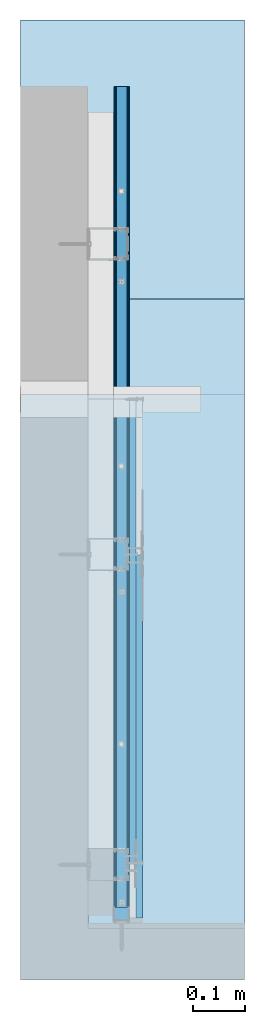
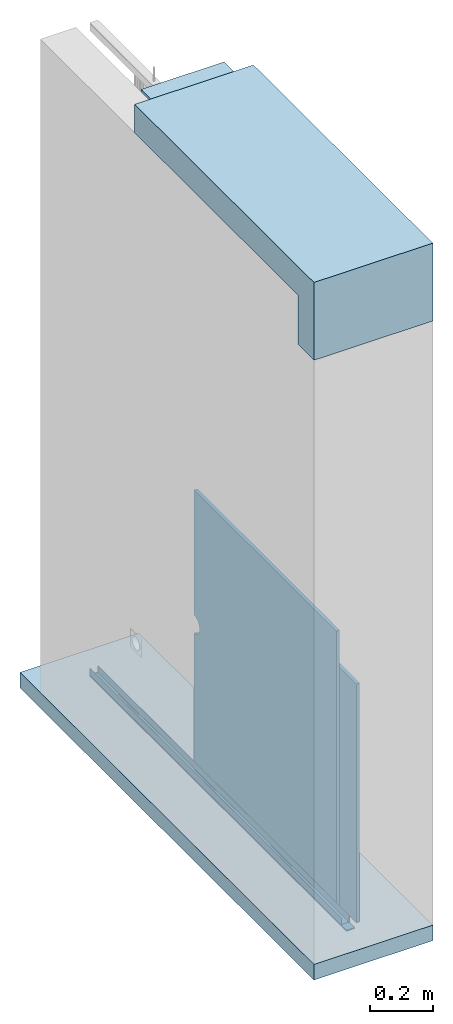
# One storey, part 1 of 61: 4 walls, 3 slabs.
"""IFC2X3 building model written with IfcOpenShell, lengths in millimetres."""

from ifc_helpers import new_model, si_unit, frame, origin_with_axes, place, context, subcontext, project, spatial, faceted_brep, material, type_object, element, save


model = new_model("IFC2X3")

# Units and contexts
model_context = context("Model", 3, world=origin_with_axes())
body_context = subcontext(model_context, "Body", "Model", "MODEL_VIEW")
ifc_project = project(units=[si_unit("LENGTHUNIT", "METRE", prefix="MILLI"), si_unit("AREAUNIT", "SQUARE_METRE"), si_unit("VOLUMEUNIT", "CUBIC_METRE")], contexts=[model_context])

# Site, building, storey
site_placement = place(None, frame((2152.1410261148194, -2015.0250894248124, 57.61556563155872), z_axis=(0.0, 0.0, 1.0), x_axis=(-1.1102230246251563e-16, 1.0, 0.0)))
site = spatial("IfcSite", under=ifc_project, at=site_placement, Name="Default Site", CompositionType="ELEMENT")
building_placement = place(site_placement, origin_with_axes())
building = spatial("IfcBuilding", under=site, at=building_placement, Name="Default Building", CompositionType="ELEMENT")
storey_placement = place(building_placement, origin_with_axes())
storey = spatial("IfcBuildingStorey", under=building, at=storey_placement, Name="Default Building Storey", CompositionType="ELEMENT", Elevation=57.61556563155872)

# Slabs
ifc_material_1 = material(Name="Concrete_04_1K")
slab_type_1 = type_object("IfcSlabType", Name="Strop#2", PredefinedType="FLOOR")
slab_1_placement = place(storey_placement, frame((3683.0405649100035, 2049.1410261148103, 2517.3944339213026), z_axis=(0.0, 0.0, 1.0), x_axis=(1.0, 0.0, 0.0)))
element("IfcSlab", 1, at=slab_1_placement, inside=storey, type_object=slab_type_1, material=ifc_material_1, Name="Strop", context=body_context, shape_type="Brep", body=[
    faceted_brep([(-350.99998329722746, -27.000143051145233, 3.0000004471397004), (-350.99998329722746, -27.000143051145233, 12.99999999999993), (-350.99998329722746, -330.00000000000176, 12.99999999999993), (-350.99998329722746, -330.00000000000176, 3.0000004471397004), (-1558.0154763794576, -27.000143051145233, 3.0000004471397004), (-1558.0154763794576, -27.000143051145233, -186.99999955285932), (-1568.0154763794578, -27.000143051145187, -186.99999955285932), (-1568.0154763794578, -27.000143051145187, 12.99999999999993), (-1558.0154763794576, -27.000143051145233, 12.99999999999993), (-1558.0154763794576, -330.0000000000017, 12.99999999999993), (-1568.0154763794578, -330.0000000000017, 12.99999999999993), (-1568.0154763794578, -330.0000000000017, -186.99999955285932), (-1558.0154763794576, -330.0000000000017, -186.99999955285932), (-1558.0154763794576, -330.0000000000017, 3.0000004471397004)], [[[0, 1, 2, 3]], [[0, 4, 5, 6, 7, 8, 1]], [[2, 1, 8, 9]], [[2, 9, 10, 11, 12, 13, 3]], [[0, 3, 13, 4]], [[7, 6, 11, 10]], [[9, 8, 7, 10]], [[5, 12, 11, 6]], [[4, 13, 12, 5]]]),
])
ifc_material_2 = material(Name="Concrete_02_1K")
slab_type_2 = type_object("IfcSlabType", Name="Beton#1", PredefinedType="FLOOR")
slab_2_placement = place(storey_placement, frame((3761.1571697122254, 2049.1410261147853, -50.615566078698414), z_axis=(0.0, 0.0, 1.0), x_axis=(1.0, 0.0, 0.0)))
element("IfcSlab", 2, at=slab_2_placement, inside=storey, type_object=slab_type_2, material=ifc_material_2, Name="Beton", context=body_context, shape_type="Brep", body=[
    faceted_brep([(110.0000167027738, 103.00000000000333, -6.999999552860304), (110.0000167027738, 103.00000000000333, 52.999592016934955), (110.0000167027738, -330.0000000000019, 52.999592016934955), (110.0000167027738, -330.0000000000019, -6.999999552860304), (-1746.1320802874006, 103.00000000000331, 52.999592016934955), (-1746.1320802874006, 103.00000000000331, -6.999999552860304), (-1746.1320802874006, -330.00000000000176, -6.999999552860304), (-1746.1320802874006, -330.00000000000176, 52.999592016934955)], [[[0, 1, 2, 3]], [[4, 5, 6, 7]], [[1, 0, 5, 4]], [[2, 1, 4, 7]], [[3, 2, 7, 6]], [[0, 3, 6, 5]]]),
])
slab_type_3 = type_object("IfcSlabType", Name="Strop#1", PredefinedType="FLOOR")
slab_3_placement = place(storey_placement, frame((3683.0405649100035, 2049.1410261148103, 2527.3944334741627), z_axis=(0.0, 0.0, 1.0), x_axis=(1.0, 0.0, 0.0)))
element("IfcSlab", 3, at=slab_3_placement, inside=storey, type_object=slab_type_3, material=ifc_material_2, Name="Strop", context=body_context, shape_type="Brep", body=[
    faceted_brep([(-535.9999832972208, 103.00000000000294, -6.999999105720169), (-535.9999832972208, 103.00000000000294, 103.00000000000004), (-535.9999832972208, -330.00000000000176, 103.00000000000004), (-535.9999832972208, -330.00000000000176, 3.0000004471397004), (-535.9999832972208, -27.000143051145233, 3.0000004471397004), (-535.9999832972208, -27.000143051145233, -6.999999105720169), (-1568.0154759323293, 103.00000000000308, -6.999999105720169), (-1568.0154759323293, 103.00000000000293, -196.99999910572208), (-1668.0154754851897, 103.00000000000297, -196.99999910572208), (-1668.0154754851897, 103.00000000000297, 103.00000000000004), (-1668.0154754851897, -330.00000000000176, 103.00000000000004), (-1668.0154754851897, -330.00000000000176, -196.99999910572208), (-1568.0154759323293, -330.0000000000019, -196.99999910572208), (-1568.0154759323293, -330.0000000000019, 3.0000004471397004), (-1568.0154759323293, -27.00014305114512, 3.0000004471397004), (-1568.0154759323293, -27.00014305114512, -6.999999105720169)], [[[0, 1, 2, 3, 4, 5]], [[1, 0, 6, 7, 8, 9]], [[1, 9, 10, 2]], [[2, 10, 11, 12, 13, 3]], [[9, 8, 11, 10]], [[7, 12, 11, 8]], [[14, 13, 12, 7, 6, 15]], [[13, 14, 4, 3]], [[0, 5, 15, 6]], [[4, 14, 15, 5]]]),
])

# Walls
ifc_material_3 = material(Name="Undefined7")
wall_type_1 = type_object("IfcWallType", Name="Płyta gipsowo-kartonowa RIGIPS PRO (4PRO™)#4", PredefinedType="NOTDEFINED")
wall_1_placement = place(storey_placement, frame((2835.506370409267, 1928.680077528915, 1062.3900398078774), z_axis=(0.0, 0.0, 1.0), x_axis=(-1.0, 6.389333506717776e-13, 0.0)))
element("IfcWall", 4, at=wall_1_placement, inside=storey, type_object=wall_type_1, material=ifc_material_3, Name="Płyta gipsowo-kartonowa RIGIPS PRO (4PRO™)", context=body_context, shape_type="Brep", body=[
    faceted_brep([(700.4768892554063, 12.500000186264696, -130.99999999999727), (700.4768892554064, -3.9046383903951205e-10, -130.99999999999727), (700.4768892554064, -3.872152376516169e-10, -1050.001621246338), (700.4768892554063, 12.500000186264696, -1050.001621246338), (45.00000178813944, 12.500000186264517, -130.99999999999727), (41.000001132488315, 11.500000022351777, -130.99999999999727), (1.000000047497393, 11.500000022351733, -130.99999999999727), (0.7411809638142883, 11.465925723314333, -130.99999999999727), (0.5000000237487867, 11.366025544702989, -130.99999999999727), (0.2928932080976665, 11.207106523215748, -130.99999999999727), (0.13397459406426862, 10.999999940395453, -130.99999999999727), (0.03407417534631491, 10.758819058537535, -130.99999999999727), (-2.887645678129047e-12, 10.499999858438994, -130.99999999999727), (0.0, 0.0, -130.99999999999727), (45.00000178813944, 12.500000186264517, -1050.001621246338), (41.000001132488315, 11.500000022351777, -1050.001621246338), (1.000000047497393, 11.500000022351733, -1050.001621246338), (0.7411809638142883, 11.465925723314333, -1050.001621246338), (0.5000000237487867, 11.366025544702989, -1050.001621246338), (0.2928932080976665, 11.207106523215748, -1050.001621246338), (0.13397459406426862, 10.999999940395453, -1050.001621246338), (0.03407417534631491, 10.758819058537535, -1050.001621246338), (-2.887645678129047e-12, 10.499999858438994, -1050.001621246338), (0.0, 0.0, -1050.001621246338)], [[[0, 1, 2, 3]], [[0, 4, 5, 6, 7, 8, 9, 10, 11, 12, 13, 1]], [[3, 14, 4, 0]], [[5, 4, 14, 15]], [[6, 5, 15, 16]], [[7, 6, 16, 17]], [[8, 7, 17, 18]], [[9, 8, 18, 19]], [[10, 9, 19, 20]], [[11, 10, 20, 21]], [[12, 11, 21, 22]], [[13, 12, 22, 23]], [[2, 1, 13, 23]], [[14, 3, 2, 23, 22, 21, 20, 19, 18, 17, 16, 15]]]),
])
ifc_material_4 = material(Name="Undefined13")
wall_type_2 = type_object("IfcWallType", Name="Taśma uszczelniająca piankowa RIGIPS#3", PredefinedType="NOTDEFINED")
wall_2_placement = place(storey_placement, frame((5610.165077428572, 3440.792279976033, -108.59097421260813), z_axis=(-6.09261989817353e-14, -6.85815824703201e-13, 1.0), x_axis=(-1.0, -2.0134422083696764e-15, -6.092619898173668e-14)))
element("IfcWall", 5, at=wall_2_placement, inside=storey, type_object=wall_type_2, material=ifc_material_4, Name="Taśma uszczelniająca piankowa RIGIPS", context=body_context, shape_type="Brep", body=[
    faceted_brep([(1867.1244382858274, 1498.965978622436, 113.97500336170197), (1867.1244382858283, 1498.9659786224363, 110.9749972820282), (1867.1244382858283, 1468.966007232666, 110.9749972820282), (1867.1244382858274, 1468.9660072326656, 113.97500336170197), (3487.5264937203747, 1498.9659786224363, 110.9749972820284), (3487.5264937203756, 1498.965978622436, 113.97500336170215), (3487.5264937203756, 1468.9660072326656, 113.97500336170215), (3487.5264937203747, 1468.9660072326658, 110.9749972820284)], [[[0, 1, 2, 3]], [[4, 5, 6, 7]], [[5, 0, 3, 6]], [[6, 3, 2, 7]], [[7, 2, 1, 4]], [[4, 1, 0, 5]]]),
])
wall_type_3 = type_object("IfcWallType", Name="Płyta gipsowo-kartonowa RIGIPS PRO (4PRO™)#5", PredefinedType="NOTDEFINED")
wall_3_placement = place(storey_placement, frame((2222.4296487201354, 1941.1800775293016, 1162.3900398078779), z_axis=(0.0, 0.0, 1.0), x_axis=(1.0, 0.0, 0.0)))
element("IfcWall", 6, at=wall_3_placement, inside=storey, type_object=wall_type_3, material=ifc_material_3, Name="Płyta gipsowo-kartonowa RIGIPS PRO (4PRO™)", context=body_context, shape_type="Brep", body=[
    faceted_brep([(17.71010947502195, -11.465925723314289, -1150.001525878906), (17.968928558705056, -11.500000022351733, -1150.001525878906), (17.968928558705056, -11.500000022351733, -86.00000000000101), (17.71010947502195, -11.465925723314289, -86.00000000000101), (57.96892964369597, -11.500000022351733, -1150.001525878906), (61.96893029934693, -12.500000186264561, -1150.001525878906), (61.96893029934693, -12.500000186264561, -86.00000000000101), (57.96892964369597, -11.500000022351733, -86.00000000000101), (17.26182171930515, -11.207106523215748, -1150.001525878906), (17.26182171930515, -11.207106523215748, -86.00000000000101), (17.10290310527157, -10.999999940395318, -86.00000000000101), (17.10290310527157, -10.999999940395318, -1150.001525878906), (16.968928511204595, -10.499999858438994, -1150.001525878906), (16.968928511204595, -10.499999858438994, -86.00000000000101), (16.968928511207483, 0.0, -86.00000000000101), (16.968928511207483, 0.0, -1150.001525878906), (17.46892853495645, -11.366025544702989, -1150.001525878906), (17.46892853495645, -11.366025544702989, -86.00000000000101), (17.003002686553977, -10.758819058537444, -1150.001525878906), (17.003002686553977, -10.758819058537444, -86.00000000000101), (915.6074303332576, -9.023892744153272e-14, -1150.001525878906), (915.6074303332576, -12.500000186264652, -1150.001525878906), (915.6074303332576, -12.500000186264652, -86.00000000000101), (915.6074303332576, -9.023892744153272e-14, -86.00000000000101), (915.6074303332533, -9.023892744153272e-14, -638.0625222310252), (915.6074303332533, -12.500000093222, -638.0625222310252), (915.6074303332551, -12.500000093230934, -685.9921750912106), (913.4097621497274, -12.500000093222, -637.9934577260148), (911.2207671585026, -12.500000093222, -637.7865367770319), (909.0490843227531, -12.500000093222, -637.4425760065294), (906.9032842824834, -12.500000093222, -636.9629328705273), (904.7918355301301, -12.50000009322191, -636.3495003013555), (902.7230709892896, -12.50000009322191, -635.6046992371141), (900.7051551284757, -12.50000009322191, -634.731469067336), (898.7460517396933, -12.50000009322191, -633.7332560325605), (896.8534925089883, -12.50000009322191, -632.6139996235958), (895.0349465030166, -12.50000009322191, -631.3781170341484), (893.2975906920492, -12.50000009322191, -630.0304857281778), (891.6482816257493, -12.50000009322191, -628.5764241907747), (890.093528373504, -12.50000009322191, -627.0216709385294), (888.6394668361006, -12.50000009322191, -625.3723618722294), (887.29183553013, -12.50000009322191, -623.6350060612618), (886.0559529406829, -12.50000009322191, -621.8164600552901), (884.9366965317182, -12.50000009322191, -619.9239008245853), (883.9384834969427, -12.50000009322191, -617.9647974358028), (883.0652533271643, -12.50000009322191, -615.9468815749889), (882.3204522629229, -12.50000009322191, -613.8781170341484), (881.7070196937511, -12.50000009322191, -611.7666682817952), (881.2273765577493, -12.50000009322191, -609.6208682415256), (880.8834157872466, -12.50000009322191, -607.4491854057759), (880.6764948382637, -12.50000009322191, -605.2601904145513), (880.6074303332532, -12.50000009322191, -603.0625222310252), (880.6764948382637, -12.50000009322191, -600.8648540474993), (880.8834157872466, -12.50000009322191, -598.6758590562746), (881.2273765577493, -12.50000009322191, -596.5041762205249), (881.7070196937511, -12.50000009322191, -594.3583761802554), (882.3204522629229, -12.50000009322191, -592.2469274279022), (883.0652533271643, -12.50000009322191, -590.1781628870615), (883.9384834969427, -12.50000009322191, -588.1602470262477), (884.9366965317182, -12.50000009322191, -586.2011436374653), (886.0559529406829, -12.50000009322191, -584.3085844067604), (887.29183553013, -12.50000009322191, -582.4900384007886), (888.6394668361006, -12.50000009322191, -580.752682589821), (890.093528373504, -12.50000009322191, -579.1033735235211), (891.6482816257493, -12.50000009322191, -577.5486202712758), (893.2975906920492, -12.50000009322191, -576.0945587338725), (895.0349465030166, -12.50000009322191, -574.7469274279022), (896.8534925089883, -12.50000009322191, -573.5110448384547), (898.7460517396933, -12.50000009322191, -572.3917884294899), (900.7051551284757, -12.50000009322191, -571.3935753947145), (902.7230709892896, -12.50000009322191, -570.5203452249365), (904.7918355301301, -12.50000009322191, -569.7755441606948), (906.9032842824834, -12.500000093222, -569.1621115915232), (909.0490843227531, -12.500000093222, -568.6824684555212), (911.2207671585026, -12.500000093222, -568.3385076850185), (913.4097621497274, -12.500000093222, -568.1315867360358), (915.6074303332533, -12.500000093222, -568.0625222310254), (915.6074303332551, -12.500000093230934, -527.9921750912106), (913.4097621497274, -9.023892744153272e-14, -568.1315867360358), (915.6074303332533, -9.023892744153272e-14, -568.0625222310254), (911.2207671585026, -9.023892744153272e-14, -568.3385076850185), (909.0490843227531, -9.023892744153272e-14, -568.6824684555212), (906.9032842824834, -9.023892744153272e-14, -569.1621115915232), (904.7918355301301, -9.023892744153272e-14, -569.7755441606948), (902.7230709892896, -9.023892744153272e-14, -570.5203452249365), (900.7051551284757, -9.023892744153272e-14, -571.3935753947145), (898.7460517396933, -9.023892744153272e-14, -572.3917884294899), (896.8534925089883, -9.023892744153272e-14, -573.5110448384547), (895.0349465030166, -9.023892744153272e-14, -574.7469274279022), (893.2975906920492, -9.023892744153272e-14, -576.0945587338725), (891.6482816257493, -9.023892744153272e-14, -577.5486202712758), (890.093528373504, -9.023892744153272e-14, -579.1033735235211), (888.6394668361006, 0.0, -580.752682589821), (887.29183553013, 0.0, -582.4900384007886), (886.0559529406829, 0.0, -584.3085844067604), (884.9366965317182, 0.0, -586.2011436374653), (883.9384834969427, 0.0, -588.1602470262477), (883.0652533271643, 0.0, -590.1781628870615), (882.3204522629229, 0.0, -592.2469274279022), (881.7070196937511, 0.0, -594.3583761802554), (881.2273765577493, 0.0, -596.5041762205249), (880.8834157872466, 0.0, -598.6758590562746), (880.6764948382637, 0.0, -600.8648540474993), (880.6074303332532, 0.0, -603.0625222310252), (880.6764948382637, 0.0, -605.2601904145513), (880.8834157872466, 0.0, -607.4491854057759), (881.2273765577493, 0.0, -609.6208682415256), (881.7070196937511, 0.0, -611.7666682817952), (882.3204522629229, 0.0, -613.8781170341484), (883.0652533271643, 0.0, -615.9468815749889), (883.9384834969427, 0.0, -617.9647974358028), (884.9366965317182, 0.0, -619.9239008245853), (886.0559529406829, 0.0, -621.8164600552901), (887.29183553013, 0.0, -623.6350060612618), (888.6394668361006, 0.0, -625.3723618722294), (890.093528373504, -9.023892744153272e-14, -627.0216709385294), (891.6482816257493, -9.023892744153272e-14, -628.5764241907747), (893.2975906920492, -9.023892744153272e-14, -630.0304857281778), (895.0349465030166, -9.023892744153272e-14, -631.3781170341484), (896.8534925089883, -9.023892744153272e-14, -632.6139996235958), (898.7460517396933, -9.023892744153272e-14, -633.7332560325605), (900.7051551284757, -9.023892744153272e-14, -634.731469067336), (902.7230709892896, -9.023892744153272e-14, -635.6046992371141), (904.7918355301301, -9.023892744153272e-14, -636.3495003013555), (906.9032842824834, -9.023892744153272e-14, -636.9629328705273), (909.0490843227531, -9.023892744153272e-14, -637.4425760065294), (911.2207671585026, -9.023892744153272e-14, -637.7865367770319), (913.4097621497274, -9.023892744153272e-14, -637.9934577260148)], [[[0, 1, 2, 3]], [[4, 5, 6, 7]], [[8, 9, 10, 11]], [[12, 13, 14, 15]], [[8, 16, 17, 9]], [[1, 4, 7, 2]], [[16, 0, 3, 17]], [[18, 19, 13, 12]], [[11, 10, 19, 18]], [[15, 20, 21, 5, 4, 1, 0, 16, 8, 11, 18, 12]], [[6, 22, 23, 14, 13, 19, 10, 9, 17, 3, 2, 7]], [[20, 24, 25, 26, 21]], [[26, 25, 27, 28, 29, 30, 31, 32, 33, 34, 35, 36, 37, 38, 39, 40, 41, 42, 43, 44, 45, 46, 47, 48, 49, 50, 51, 52, 53, 54, 55, 56, 57, 58, 59, 60, 61, 62, 63, 64, 65, 66, 67, 68, 69, 70, 71, 72, 73, 74, 75, 76, 77, 22, 6, 5, 21]], [[76, 75, 78, 79]], [[75, 74, 80, 78]], [[74, 73, 81, 80]], [[73, 72, 82, 81]], [[72, 71, 83, 82]], [[71, 70, 84, 83]], [[70, 69, 85, 84]], [[69, 68, 86, 85]], [[68, 67, 87, 86]], [[67, 66, 88, 87]], [[66, 65, 89, 88]], [[65, 64, 90, 89]], [[64, 63, 91, 90]], [[63, 62, 92, 91]], [[62, 61, 93, 92]], [[61, 60, 94, 93]], [[60, 59, 95, 94]], [[59, 58, 96, 95]], [[58, 57, 97, 96]], [[57, 56, 98, 97]], [[56, 55, 99, 98]], [[55, 54, 100, 99]], [[54, 53, 101, 100]], [[53, 52, 102, 101]], [[52, 51, 103, 102]], [[51, 50, 104, 103]], [[50, 49, 105, 104]], [[49, 48, 106, 105]], [[48, 47, 107, 106]], [[47, 46, 108, 107]], [[46, 45, 109, 108]], [[45, 44, 110, 109]], [[44, 43, 111, 110]], [[43, 42, 112, 111]], [[42, 41, 113, 112]], [[41, 40, 114, 113]], [[40, 39, 115, 114]], [[39, 38, 116, 115]], [[38, 37, 117, 116]], [[37, 36, 118, 117]], [[36, 35, 119, 118]], [[35, 34, 120, 119]], [[34, 33, 121, 120]], [[33, 32, 122, 121]], [[32, 31, 123, 122]], [[31, 30, 124, 123]], [[30, 29, 125, 124]], [[29, 28, 126, 125]], [[28, 27, 127, 126]], [[27, 25, 24, 127]], [[76, 79, 23, 22, 77]], [[23, 79, 78, 80, 81, 82, 83, 84, 85, 86, 87, 88, 89, 90, 91, 92, 93, 94, 95, 96, 97, 98, 99, 100, 101, 102, 103, 104, 105, 106, 107, 108, 109, 110, 111, 112, 113, 114, 115, 116, 117, 118, 119, 120, 121, 122, 123, 124, 125, 126, 127, 24, 20, 15, 14]]]),
])
ifc_material_5 = material(Name="Undefined9")
wall_type_4 = type_object("IfcWallType", Name="Profil RIGIPS UD 30 GypSerra®/Ultrastil®", PredefinedType="NOTDEFINED")
wall_4_placement = place(storey_placement, frame((5048.786508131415, 3440.792279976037, -108.59097421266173), z_axis=(-6.092619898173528e-14, -6.85815824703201e-13, 1.0), x_axis=(-1.0, -2.013442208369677e-15, -6.092619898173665e-14)))
element("IfcWall", 7, at=wall_4_placement, inside=storey, type_object=wall_type_4, material=ifc_material_5, Name="Profil RIGIPS UD 30 GypSerra®/Ultrastil®", context=body_context, shape_type="Brep", body=[
    faceted_brep([(2893.189556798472, 1469.9159860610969, 140.97499847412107), (2893.189556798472, 1469.366073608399, 140.97499847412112), (2893.18955679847, 1469.3660736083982, 114.77500200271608), (2893.1895567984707, 1469.3758487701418, 114.6498546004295), (2893.1895567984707, 1469.405174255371, 114.52778428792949), (2893.1895567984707, 1469.4532155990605, 114.4118085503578), (2893.1895567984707, 1469.518780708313, 114.30477350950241), (2893.1895567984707, 1469.6003198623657, 114.20931667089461), (2893.1895567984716, 1469.6958065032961, 114.1277849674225), (2893.1895567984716, 1469.8028564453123, 114.06219750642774), (2893.1895567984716, 1469.9188470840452, 114.01415616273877), (2893.1895567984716, 1470.0409173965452, 113.9848530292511), (2893.1895567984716, 1470.1660871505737, 113.97500336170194), (2893.1895567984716, 1472.0159769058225, 113.97500336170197), (2893.1895567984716, 1472.1635580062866, 113.98871988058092), (2893.1895567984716, 1472.3060131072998, 114.02940750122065), (2893.1895567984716, 1472.4385738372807, 114.09565806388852), (2893.1895567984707, 1472.5565910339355, 114.18521404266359), (2893.1895567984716, 1472.656011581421, 114.29499834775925), (2893.1895567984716, 1473.6760854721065, 115.65499752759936), (2893.1895567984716, 1473.7755060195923, 115.76478183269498), (2893.1895567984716, 1473.8935232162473, 115.85433781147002), (2893.189556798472, 1474.0260839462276, 115.92059582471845), (2893.189556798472, 1474.1685390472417, 115.96128344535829), (2893.189556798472, 1474.316000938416, 115.97499996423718), (2893.189556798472, 1493.6159849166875, 115.97499996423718), (2893.189556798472, 1493.7635660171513, 115.96128344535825), (2893.189556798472, 1493.9060211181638, 115.92059582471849), (2893.189556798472, 1494.0385818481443, 115.85433781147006), (2893.189556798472, 1494.1565990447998, 115.76478183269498), (2893.189556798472, 1494.2560195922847, 115.65499752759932), (2893.1895567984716, 1495.2759742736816, 114.29499834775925), (2893.1895567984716, 1495.3755140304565, 114.18521404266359), (2893.1895567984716, 1495.4935312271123, 114.09565806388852), (2893.1895567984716, 1495.6260919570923, 114.02940750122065), (2893.1895567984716, 1495.7685470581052, 113.98871988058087), (2893.1895567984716, 1495.9160089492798, 113.97500336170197), (2893.1895567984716, 1497.7660179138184, 113.97500336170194), (2893.1895567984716, 1497.8911876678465, 113.98485302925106), (2893.1895567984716, 1498.0132579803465, 114.01415616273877), (2893.1895567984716, 1498.1292486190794, 114.06219750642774), (2893.1895567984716, 1498.2362985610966, 114.12778496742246), (2893.1895567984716, 1498.3316659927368, 114.2093166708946), (2893.1895567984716, 1498.4132051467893, 114.30477350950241), (2893.1895567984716, 1498.4788894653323, 114.4118085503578), (2893.1895567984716, 1498.5269308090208, 114.5277842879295), (2893.1895567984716, 1498.5561370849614, 114.6498546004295), (2893.189556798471, 1498.5660314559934, 114.77500200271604), (2893.189556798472, 1498.5660314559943, 140.97499847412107), (2893.189556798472, 1498.0159997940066, 140.97499847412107), (2893.189556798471, 1498.0159997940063, 114.77500200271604), (2893.1895567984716, 1498.012900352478, 114.73589390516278), (2893.1895567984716, 1498.0038404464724, 114.69774693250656), (2893.1895567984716, 1497.9888200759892, 114.66149985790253), (2893.1895567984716, 1497.9683160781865, 114.62805420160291), (2893.1895567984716, 1497.942805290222, 114.59822207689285), (2893.1895567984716, 1497.9130029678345, 114.57274854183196), (2893.1895567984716, 1497.8795051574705, 114.55225199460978), (2893.1895567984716, 1497.843265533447, 114.53723907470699), (2893.1895567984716, 1497.8051185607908, 114.5280748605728), (2893.1895567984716, 1497.7660179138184, 114.52499777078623), (2893.1895567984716, 1495.9160089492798, 114.52499777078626), (2893.1895567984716, 1495.8698749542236, 114.52928930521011), (2893.1895567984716, 1495.825409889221, 114.54199999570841), (2893.1895567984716, 1495.784044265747, 114.56270515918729), (2893.1895567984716, 1495.747089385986, 114.59068953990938), (2893.1895567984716, 1495.715975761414, 114.6249994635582), (2893.189556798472, 1494.6960210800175, 115.98499864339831), (2893.189556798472, 1494.5281744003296, 116.17025732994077), (2893.1895567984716, 1494.3289756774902, 116.32138490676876), (2893.1895567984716, 1494.1053390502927, 116.43319576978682), (2893.1895567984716, 1493.8650131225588, 116.50185286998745), (2893.1895567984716, 1493.6159849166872, 116.52500182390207), (2893.189556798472, 1474.3160009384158, 116.52500182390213), (2893.189556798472, 1474.067091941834, 116.50185286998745), (2893.189556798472, 1473.8266468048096, 116.43319576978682), (2893.189556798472, 1473.6031293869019, 116.32138490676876), (2893.189556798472, 1473.4039306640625, 116.17025732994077), (2893.189556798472, 1473.2360839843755, 115.98499864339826), (2893.1895567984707, 1472.2160100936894, 114.6249994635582), (2893.1895567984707, 1472.1848964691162, 114.59068953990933), (2893.1895567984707, 1472.148060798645, 114.56270515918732), (2893.1895567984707, 1472.1066951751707, 114.54199999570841), (2893.1895567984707, 1472.0621109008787, 114.52928930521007), (2893.1895567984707, 1472.0159769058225, 114.52499777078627), (2893.1895567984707, 1470.1660871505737, 114.52499777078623), (2893.1895567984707, 1470.1268672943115, 114.5280748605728), (2893.1895567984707, 1470.088720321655, 114.53723907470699), (2893.1895567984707, 1470.0524806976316, 114.55225199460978), (2893.1895567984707, 1470.0191020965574, 114.57274854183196), (2893.1895567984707, 1469.9892997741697, 114.59822207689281), (2893.1895567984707, 1469.9637889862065, 114.6280542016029), (2893.1895567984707, 1469.943284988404, 114.66149985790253), (2893.1895567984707, 1469.9282646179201, 114.69774693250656), (2893.1895567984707, 1469.9190855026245, 114.73589390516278), (2893.18955679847, 1469.915986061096, 114.77500200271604), (1306.0656785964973, 1469.3660736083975, 114.77500200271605), (1306.0656785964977, 1469.3660736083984, 140.9749984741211), (1306.0656785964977, 1469.9159860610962, 140.97499847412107), (1306.0656785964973, 1469.9159860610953, 114.77500200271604), (1306.0656785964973, 1469.9190855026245, 114.73589390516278), (1306.0656785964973, 1469.9282646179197, 114.69774693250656), (1306.0656785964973, 1469.9432849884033, 114.66149985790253), (1306.0656785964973, 1469.963788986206, 114.62805420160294), (1306.0656785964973, 1469.989299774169, 114.59822207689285), (1306.0656785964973, 1470.0191020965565, 114.57274854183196), (1306.0656785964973, 1470.0524806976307, 114.55225199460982), (1306.0656785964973, 1470.0887203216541, 114.53723907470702), (1306.0656785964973, 1470.1268672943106, 114.52807486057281), (1306.0656785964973, 1470.1660871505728, 114.5249977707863), (1306.0656785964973, 1472.0159769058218, 114.52499777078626), (1306.0656785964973, 1472.062110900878, 114.52928930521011), (1306.0656785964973, 1472.10669517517, 114.54199999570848), (1306.0656785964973, 1472.148060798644, 114.56270515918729), (1306.0656785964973, 1472.1848964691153, 114.59068953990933), (1306.0656785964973, 1472.216010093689, 114.6249994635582), (1306.0656785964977, 1473.236083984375, 115.98499864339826), (1306.0656785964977, 1473.4039306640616, 116.17025732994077), (1306.0656785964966, 1473.6031293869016, 116.3213849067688), (1306.0656785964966, 1473.8266468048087, 116.43319576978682), (1306.0656785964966, 1474.0670919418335, 116.50185286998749), (1306.0656785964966, 1474.3160009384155, 116.52500182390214), (1306.0656785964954, 1493.615984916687, 116.52500182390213), (1306.0656785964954, 1493.8650131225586, 116.50185286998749), (1306.0656785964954, 1494.105339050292, 116.43319576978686), (1306.0656785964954, 1494.32897567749, 116.3213849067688), (1306.0656785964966, 1494.5281744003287, 116.17025732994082), (1306.0656785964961, 1494.696021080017, 115.98499864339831), (1306.0656785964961, 1495.7159757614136, 114.62499946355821), (1306.0656785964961, 1495.7470893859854, 114.59068953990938), (1306.0656785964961, 1495.7840442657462, 114.56270515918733), (1306.0656785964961, 1495.8254098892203, 114.54199999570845), (1306.0656785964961, 1495.8698749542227, 114.52928930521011), (1306.0656785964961, 1495.9160089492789, 114.5249977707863), (1306.0656785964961, 1497.7660179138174, 114.52499777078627), (1306.0656785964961, 1497.80511856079, 114.5280748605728), (1306.0656785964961, 1497.8432655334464, 114.53723907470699), (1306.0656785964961, 1497.8795051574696, 114.55225199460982), (1306.0656785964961, 1497.9130029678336, 114.57274854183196), (1306.0656785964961, 1497.9428052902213, 114.59822207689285), (1306.0656785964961, 1497.968316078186, 114.62805420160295), (1306.0656785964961, 1497.9888200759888, 114.66149985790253), (1306.0656785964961, 1498.0038404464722, 114.69774693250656), (1306.0656785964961, 1498.0129003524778, 114.73589390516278), (1306.0656785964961, 1498.0159997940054, 114.77500200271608), (1306.0656785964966, 1498.0159997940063, 140.97499847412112), (1306.0656785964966, 1498.5660314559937, 140.97499847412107), (1306.0656785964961, 1498.5660314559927, 114.77500200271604), (1306.0656785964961, 1498.556137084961, 114.64985460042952), (1306.0656785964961, 1498.5269308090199, 114.52778428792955), (1306.0656785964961, 1498.478889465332, 114.41180855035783), (1306.0656785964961, 1498.4132051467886, 114.30477350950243), (1306.0656785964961, 1498.3316659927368, 114.20931667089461), (1306.0656785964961, 1498.236298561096, 114.12778496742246), (1306.0656785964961, 1498.1292486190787, 114.06219750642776), (1306.0656785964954, 1498.0132579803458, 114.01415616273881), (1306.0656785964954, 1497.8911876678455, 113.9848530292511), (1306.0656785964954, 1497.7660179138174, 113.97500336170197), (1306.0656785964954, 1495.9160089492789, 113.97500336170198), (1306.0656785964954, 1495.7685470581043, 113.98871988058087), (1306.0656785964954, 1495.6260919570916, 114.02940750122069), (1306.0656785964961, 1495.4935312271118, 114.09565806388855), (1306.0656785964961, 1495.3755140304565, 114.18521404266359), (1306.0656785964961, 1495.275974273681, 114.29499834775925), (1306.0656785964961, 1494.2560195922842, 115.65499752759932), (1306.0656785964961, 1494.1565990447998, 115.76478183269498), (1306.0656785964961, 1494.0385818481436, 115.85433781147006), (1306.0656785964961, 1493.9060211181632, 115.92059582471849), (1306.0656785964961, 1493.7635660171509, 115.96128344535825), (1306.0656785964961, 1493.615984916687, 115.9749999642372), (1306.0656785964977, 1474.3160009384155, 115.9749999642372), (1306.0656785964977, 1474.1685390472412, 115.96128344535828), (1306.0656785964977, 1474.0260839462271, 115.92059582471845), (1306.0656785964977, 1473.8935232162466, 115.85433781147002), (1306.0656785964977, 1473.7755060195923, 115.764781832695), (1306.0656785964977, 1473.676085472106, 115.65499752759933), (1306.0656785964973, 1472.65601158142, 114.29499834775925), (1306.0656785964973, 1472.5565910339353, 114.18521404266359), (1306.0656785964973, 1472.43857383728, 114.09565806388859), (1306.0656785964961, 1472.306013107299, 114.02940750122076), (1306.0656785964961, 1472.1635580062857, 113.98871988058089), (1306.0656785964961, 1472.0159769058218, 113.97500336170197), (1306.0656785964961, 1470.1660871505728, 113.97500336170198), (1306.0656785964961, 1470.0409173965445, 113.98485302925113), (1306.0656785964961, 1469.9188470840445, 114.01415616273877), (1306.0656785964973, 1469.8028564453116, 114.06219750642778), (1306.0656785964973, 1469.695806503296, 114.12778496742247), (1306.0656785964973, 1469.6003198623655, 114.20931667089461), (1306.0656785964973, 1469.5187807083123, 114.30477350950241), (1306.0656785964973, 1469.45321559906, 114.4118085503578), (1306.0656785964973, 1469.4051742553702, 114.52778428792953), (1306.0656785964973, 1469.3758487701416, 114.64985460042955)], [[[0, 1, 2, 3, 4, 5, 6, 7, 8, 9, 10, 11, 12, 13, 14, 15, 16, 17, 18, 19, 20, 21, 22, 23, 24, 25, 26, 27, 28, 29, 30, 31, 32, 33, 34, 35, 36, 37, 38, 39, 40, 41, 42, 43, 44, 45, 46, 47, 48, 49, 50, 51, 52, 53, 54, 55, 56, 57, 58, 59, 60, 61, 62, 63, 64, 65, 66, 67, 68, 69, 70, 71, 72, 73, 74, 75, 76, 77, 78, 79, 80, 81, 82, 83, 84, 85, 86, 87, 88, 89, 90, 91, 92, 93, 94, 95]], [[96, 97, 98, 99, 100, 101, 102, 103, 104, 105, 106, 107, 108, 109, 110, 111, 112, 113, 114, 115, 116, 117, 118, 119, 120, 121, 122, 123, 124, 125, 126, 127, 128, 129, 130, 131, 132, 133, 134, 135, 136, 137, 138, 139, 140, 141, 142, 143, 144, 145, 146, 147, 148, 149, 150, 151, 152, 153, 154, 155, 156, 157, 158, 159, 160, 161, 162, 163, 164, 165, 166, 167, 168, 169, 170, 171, 172, 173, 174, 175, 176, 177, 178, 179, 180, 181, 182, 183, 184, 185, 186, 187, 188, 189, 190, 191]], [[23, 171, 170, 24]], [[22, 172, 171, 23]], [[175, 174, 20, 19]], [[172, 22, 21, 173]], [[20, 174, 173, 21]], [[24, 170, 169, 25]], [[29, 165, 164, 30]], [[165, 29, 28, 166]], [[27, 167, 166, 28]], [[169, 168, 26, 25]], [[26, 168, 167, 27]], [[30, 164, 163, 31]], [[35, 159, 158, 36]], [[34, 160, 159, 35]], [[33, 32, 162, 161]], [[161, 160, 34, 33]], [[163, 162, 32, 31]], [[36, 158, 157, 37]], [[46, 45, 149, 148]], [[148, 147, 47, 46]], [[44, 150, 149, 45]], [[43, 42, 152, 151]], [[151, 150, 44, 43]], [[41, 40, 154, 153]], [[153, 152, 42, 41]], [[39, 155, 154, 40]], [[38, 37, 157, 156]], [[156, 155, 39, 38]], [[47, 147, 146, 48]], [[48, 146, 145, 49]], [[49, 145, 144, 50]], [[134, 60, 59, 135]], [[58, 136, 135, 59]], [[57, 137, 136, 58]], [[137, 57, 56, 138]], [[55, 139, 138, 56]], [[139, 55, 54, 140]], [[53, 141, 140, 54]], [[52, 142, 141, 53]], [[142, 52, 51, 143]], [[50, 144, 143, 51]], [[60, 134, 133, 61]], [[65, 129, 128, 66]], [[129, 65, 64, 130]], [[63, 131, 130, 64]], [[133, 132, 62, 61]], [[62, 132, 131, 63]], [[66, 128, 127, 67]], [[71, 123, 122, 72]], [[70, 69, 125, 124]], [[124, 123, 71, 70]], [[68, 126, 125, 69]], [[127, 126, 68, 67]], [[72, 122, 121, 73]], [[77, 117, 116, 78]], [[76, 118, 117, 77]], [[75, 74, 120, 119]], [[119, 118, 76, 75]], [[121, 120, 74, 73]], [[78, 116, 115, 79]], [[83, 111, 110, 84]], [[82, 112, 111, 83]], [[115, 114, 80, 79]], [[112, 82, 81, 113]], [[80, 114, 113, 81]], [[84, 110, 109, 85]], [[99, 95, 94, 100]], [[93, 101, 100, 94]], [[92, 102, 101, 93]], [[102, 92, 91, 103]], [[90, 104, 103, 91]], [[104, 90, 89, 105]], [[88, 106, 105, 89]], [[87, 107, 106, 88]], [[107, 87, 86, 108]], [[85, 109, 108, 86]], [[95, 99, 98, 0]], [[0, 98, 97, 1]], [[1, 97, 96, 2]], [[11, 10, 184, 183]], [[183, 182, 12, 11]], [[9, 185, 184, 10]], [[6, 5, 189, 188]], [[7, 6, 188, 187]], [[8, 7, 187, 186]], [[186, 185, 9, 8]], [[4, 190, 189, 5]], [[3, 2, 96, 191]], [[191, 190, 4, 3]], [[12, 182, 181, 13]], [[17, 177, 176, 18]], [[16, 15, 179, 178]], [[178, 177, 17, 16]], [[14, 180, 179, 15]], [[181, 180, 14, 13]], [[18, 176, 175, 19]]]),
])

save(model, "model.ifc")
